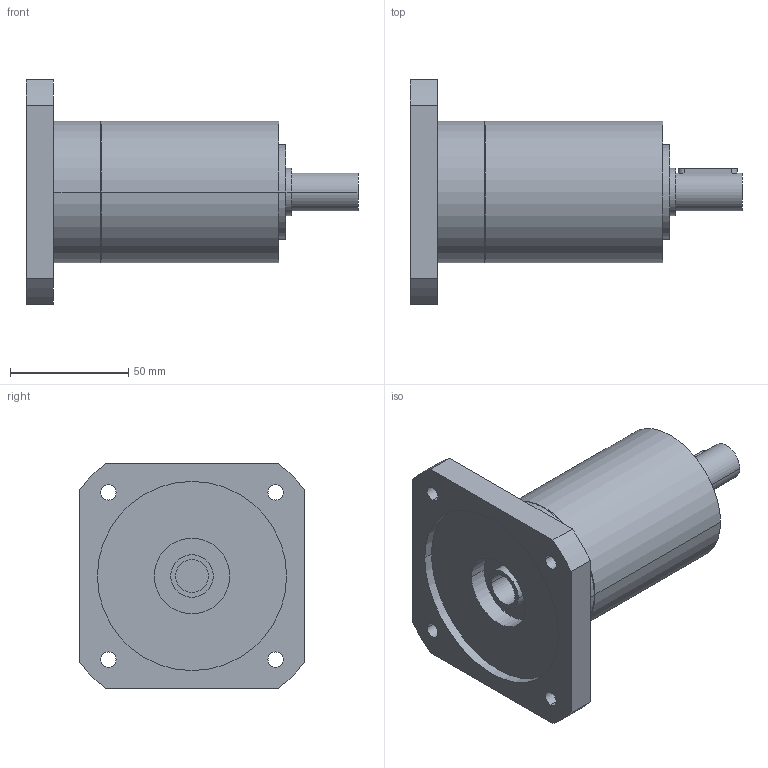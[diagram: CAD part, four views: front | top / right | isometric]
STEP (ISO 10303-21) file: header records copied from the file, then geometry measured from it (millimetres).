
FILE_DESCRIPTION(('CoCreate Modeling STEP Export'),'2;1');
FILE_NAME('GPR75_ig-9-12-16-20-24-30-36_16_B14_14_P07.stp','2014-08-25T16:45:11',(''),(''),'CoCreate Modeling STEP processor for AP214 (Solid Model)','CoCreate Modeling 16.00C 25-Feb-2009 (C) Parametric Technology GmbH','');
FILE_SCHEMA(('AUTOMOTIVE_DESIGN { 1 0 10303 214 1 1 1 1 }'));
Length unit declared in the file: millimetre
Products named in the file (2): GPR75_ig-9-12-16-20-24-30-36_16_B14_14_P07
Assembly tree (1 placements, depth 2):
  GPR75_ig-9-12-16-20-24-30-36_16_B14_14_P07
    GPR75_ig-9-12-16-20-24-30-36_16_B14_14_P07
Bounding box: 140.4 x 95 x 95 mm (x, y, z)
Volume: 349596.8 mm3; surface area: 46653.9 mm2
Topology: 1 solids, 1 shells, 70 faces, 188 edges, 132 vertices
Faces by surface type: cylinder 42, plane 22, cone 6
Entity records: 1939 total; most frequent: ORIENTED_EDGE 372, CARTESIAN_POINT 360, DIRECTION 262, EDGE_CURVE 186, VERTEX_POINT 132, AXIS2_PLACEMENT_3D 98, EDGE_LOOP 92, FACE_OUTER_BOUND 70
